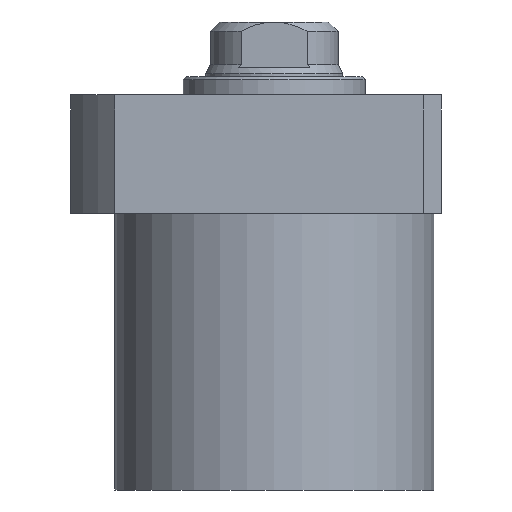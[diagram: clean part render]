
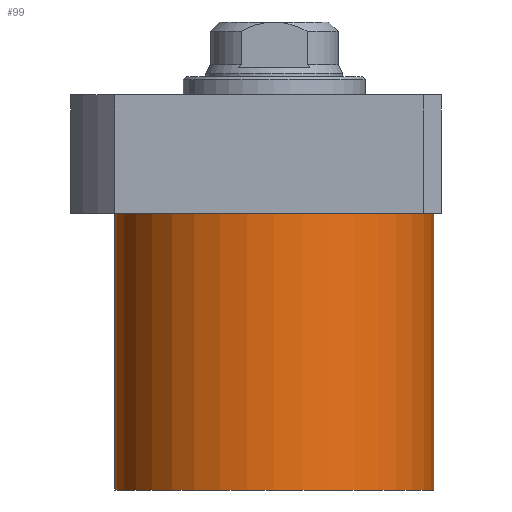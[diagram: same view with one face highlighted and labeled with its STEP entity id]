
A CAD part, front view. The second image highlights one B-rep face of the part: STEP entity #99.
In plain terms, the highlighted cylindrical face has radius 52.5 mm (diameter 105 mm), a partial arc.
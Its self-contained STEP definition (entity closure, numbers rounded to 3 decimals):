
#22 = EDGE_CURVE ( 'NONE', #1469, #768, #497, .T. ) ;
#29 = ORIENTED_EDGE ( 'NONE', *, *, #22, .F. ) ;
#35 = VECTOR ( 'NONE', #284, 1000. ) ;
#99 = ADVANCED_FACE ( 'NONE', ( #201 ), #1800, .T. ) ;
#118 = EDGE_CURVE ( 'NONE', #1135, #1469, #667, .T. ) ;
#201 = FACE_OUTER_BOUND ( 'NONE', #527, .T. ) ;
#284 = DIRECTION ( 'NONE',  ( 0., 0., 1. ) ) ;
#409 = CARTESIAN_POINT ( 'NONE',  ( -52.5, 0., -110.5 ) ) ;
#497 = LINE ( 'NONE', #409, #1643 ) ;
#527 = EDGE_LOOP ( 'NONE', ( #29, #932, #804, #1804 ) ) ;
#532 = AXIS2_PLACEMENT_3D ( 'NONE', #881, #1341, #1908 ) ;
#585 = DIRECTION ( 'NONE',  ( 1., 0., 0. ) ) ;
#667 = CIRCLE ( 'NONE', #532, 52.5 ) ;
#728 = EDGE_CURVE ( 'NONE', #1611, #768, #1545, .T. ) ;
#734 = DIRECTION ( 'NONE',  ( 0., 0., -1. ) ) ;
#740 = DIRECTION ( 'NONE',  ( 1., 0., 0. ) ) ;
#751 = CARTESIAN_POINT ( 'NONE',  ( -52.5, 0., -110.5 ) ) ;
#752 = LINE ( 'NONE', #1335, #35 ) ;
#768 = VERTEX_POINT ( 'NONE', #1025 ) ;
#804 = ORIENTED_EDGE ( 'NONE', *, *, #1901, .T. ) ;
#832 = CARTESIAN_POINT ( 'NONE',  ( 52.5, 0., -110.5 ) ) ;
#881 = CARTESIAN_POINT ( 'NONE',  ( 0., 0., -110.5 ) ) ;
#932 = ORIENTED_EDGE ( 'NONE', *, *, #118, .F. ) ;
#982 = AXIS2_PLACEMENT_3D ( 'NONE', #1609, #734, #585 ) ;
#1025 = CARTESIAN_POINT ( 'NONE',  ( -52.5, 0., -19.5 ) ) ;
#1128 = DIRECTION ( 'NONE',  ( 0., 0., 1. ) ) ;
#1135 = VERTEX_POINT ( 'NONE', #832 ) ;
#1325 = CARTESIAN_POINT ( 'NONE',  ( 0., 0., -110.5 ) ) ;
#1335 = CARTESIAN_POINT ( 'NONE',  ( 52.5, 0., -110.5 ) ) ;
#1341 = DIRECTION ( 'NONE',  ( 0., 0., -1. ) ) ;
#1372 = CARTESIAN_POINT ( 'NONE',  ( 52.5, 0., -19.5 ) ) ;
#1469 = VERTEX_POINT ( 'NONE', #751 ) ;
#1545 = CIRCLE ( 'NONE', #982, 52.5 ) ;
#1609 = CARTESIAN_POINT ( 'NONE',  ( 0., 0., -19.5 ) ) ;
#1611 = VERTEX_POINT ( 'NONE', #1372 ) ;
#1630 = AXIS2_PLACEMENT_3D ( 'NONE', #1325, #1634, #740 ) ;
#1634 = DIRECTION ( 'NONE',  ( 0., 0., 1. ) ) ;
#1643 = VECTOR ( 'NONE', #1128, 1000. ) ;
#1800 = CYLINDRICAL_SURFACE ( 'NONE', #1630, 52.5 ) ;
#1804 = ORIENTED_EDGE ( 'NONE', *, *, #728, .T. ) ;
#1901 = EDGE_CURVE ( 'NONE', #1135, #1611, #752, .T. ) ;
#1908 = DIRECTION ( 'NONE',  ( -1., 0., 0. ) ) ;
